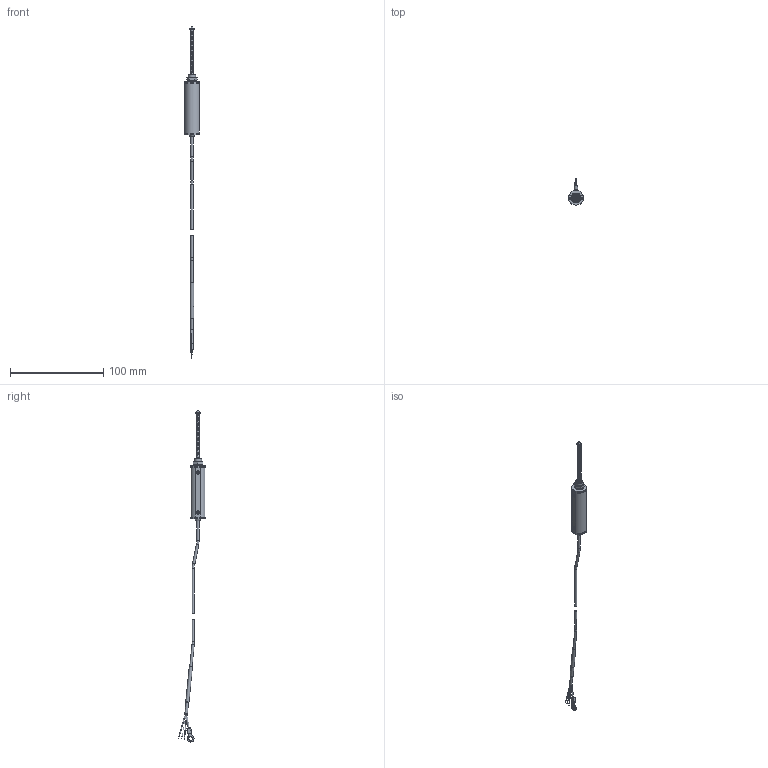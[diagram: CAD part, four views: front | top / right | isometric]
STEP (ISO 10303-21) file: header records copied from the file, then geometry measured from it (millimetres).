
FILE_DESCRIPTION(/* description */ (''),/* implementation_level */ '2;1');
FILE_NAME(/* name */ 'D:\Users\Justin\Documents\CAD Drawings\The Sensor Connection\LPPS\LPPS-MSL\3D\LPPS-MSL-025\LPPS-MSL-025.stp',/* time_stamp */ '2019-08-29T15:21:46-04:00',/* author */ ('Justin'),/* organization */ (''),/* preprocessor_version */ 'ST-DEVELOPER v18',/* originating_system */ 'Autodesk Inventor 2020',/* authorisation */ '');
FILE_SCHEMA (('AUTOMOTIVE_DESIGN { 1 0 10303 214 3 1 1 }'));
Length unit declared in the file: inch
Products named in the file (5): LPPS-MSL-025; LPPS-MSL-025 HOUSING_Shrinkwrap_1; LPPS-MSL-025 SHAFT_Shrinkwrap_1; ISO 4035 - M8(6); LPPS-MSL-025 Spring
Assembly tree (4 placements, depth 2):
  LPPS-MSL-025
    LPPS-MSL-025 HOUSING_Shrinkwrap_1
    LPPS-MSL-025 SHAFT_Shrinkwrap_1
    ISO 4035 - M8(6)
    LPPS-MSL-025 Spring
Bounding box: 15.1 x 28.76 x 356.77 mm (x, y, z)
Volume: 6029.7 mm3; surface area: 11791.1 mm2
Topology: 24 solids, 24 shells, 339 faces, 855 edges, 577 vertices
Faces by surface type: plane 162, cylinder 83, cone 70, torus 21, sphere 2, bspline 1
Full cylindrical faces by diameter (mm): 0.381 x3, 0.635 x3, 1.5 x1, 1.755 x4, 2 x8, 2.274 x1, 2.5 x6, 2.75 x1, 2.85 x3, 3 x1, 3.5 x5, 4.191 x1, 5 x3, 6.1 x1, 6.5 x2, 6.647 x1, 8 x1, 9 x3, 9.5 x1
Entity records: 14646 total; most frequent: CARTESIAN_POINT 5793, DIRECTION 1752, ORIENTED_EDGE 1698, EDGE_CURVE 849, AXIS2_PLACEMENT_3D 697, VERTEX_POINT 577, EDGE_LOOP 404, LINE 358
